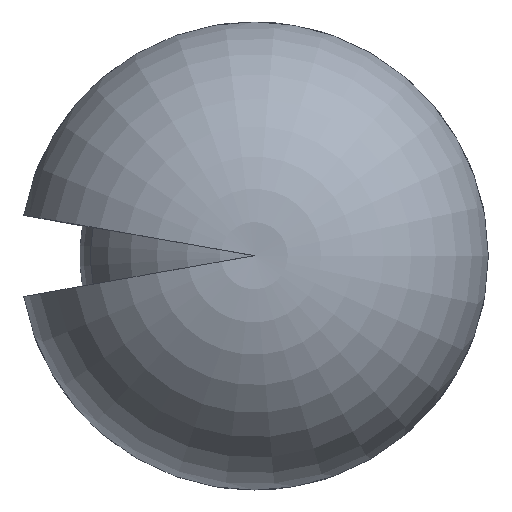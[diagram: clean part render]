
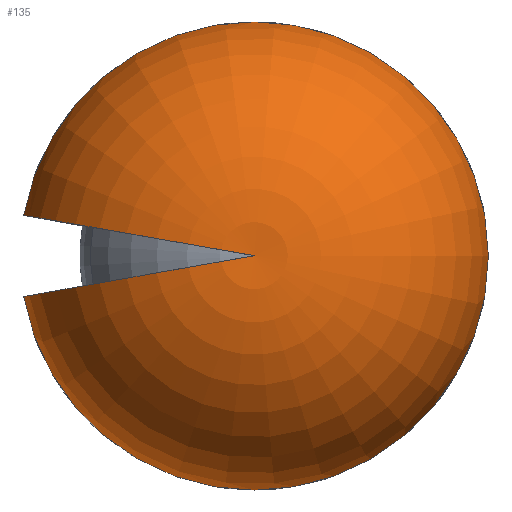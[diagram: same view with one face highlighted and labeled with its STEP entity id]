
A CAD part, top view. The second image highlights one B-rep face of the part: STEP entity #135.
In plain terms, the highlighted toroidal (fillet/blend) face has major radius 350 mm and minor radius 2830.01 mm.
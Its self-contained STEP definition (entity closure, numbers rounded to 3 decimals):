
#1 = DIRECTION ( 'NONE',  ( 0., 1., 0. ) ) ;
#2 = FACE_OUTER_BOUND ( 'NONE', #381, .T. ) ;
#3 = ORIENTED_EDGE ( 'NONE', *, *, #129, .F. ) ;
#19 = CARTESIAN_POINT ( 'NONE',  ( -3121.093, -550.333, 1026.652 ) ) ;
#30 = DIRECTION ( 'NONE',  ( 0., 0., -1. ) ) ;
#38 = CIRCLE ( 'NONE', #264, 2830.01 ) ;
#67 = CARTESIAN_POINT ( 'NONE',  ( 0., 0., 780. ) ) ;
#68 = CIRCLE ( 'NONE', #288, 2830.01 ) ;
#96 = CARTESIAN_POINT ( 'NONE',  ( 0., 0., 1026.652 ) ) ;
#129 = EDGE_CURVE ( 'NONE', #395, #358, #370, .T. ) ;
#130 = DIRECTION ( 'NONE',  ( 0., 1., 0. ) ) ;
#135 = ADVANCED_FACE ( 'NONE', ( #2 ), #248, .T. ) ;
#141 = CARTESIAN_POINT ( 'NONE',  ( -344.683, -60.777, 780. ) ) ;
#168 = DIRECTION ( 'NONE',  ( 0.985, -0.174, 0. ) ) ;
#176 = ORIENTED_EDGE ( 'NONE', *, *, #320, .F. ) ;
#181 = AXIS2_PLACEMENT_3D ( 'NONE', #96, #30, #130 ) ;
#239 = DIRECTION ( 'NONE',  ( -0.174, 0.985, 0. ) ) ;
#248 = TOROIDAL_SURFACE ( 'NONE', #393, 350., 2830.01 ) ;
#250 = DIRECTION ( 'NONE',  ( 0.174, 0.985, 0. ) ) ;
#260 = CARTESIAN_POINT ( 'NONE',  ( 0., 0., 3588.283 ) ) ;
#264 = AXIS2_PLACEMENT_3D ( 'NONE', #380, #250, #168 ) ;
#269 = DIRECTION ( 'NONE',  ( 0.985, 0.174, 0. ) ) ;
#288 = AXIS2_PLACEMENT_3D ( 'NONE', #141, #239, #269 ) ;
#294 = VERTEX_POINT ( 'NONE', #260 ) ;
#300 = CARTESIAN_POINT ( 'NONE',  ( -3121.093, 550.333, 1026.652 ) ) ;
#309 = DIRECTION ( 'NONE',  ( 0., 0., -1. ) ) ;
#313 = ORIENTED_EDGE ( 'NONE', *, *, #315, .T. ) ;
#315 = EDGE_CURVE ( 'NONE', #395, #294, #38, .T. ) ;
#320 = EDGE_CURVE ( 'NONE', #358, #294, #68, .T. ) ;
#358 = VERTEX_POINT ( 'NONE', #19 ) ;
#370 = CIRCLE ( 'NONE', #181, 3169.241 ) ;
#380 = CARTESIAN_POINT ( 'NONE',  ( -344.683, 60.777, 780. ) ) ;
#381 = EDGE_LOOP ( 'NONE', ( #176, #3, #313 ) ) ;
#393 = AXIS2_PLACEMENT_3D ( 'NONE', #67, #309, #1 ) ;
#395 = VERTEX_POINT ( 'NONE', #300 ) ;
